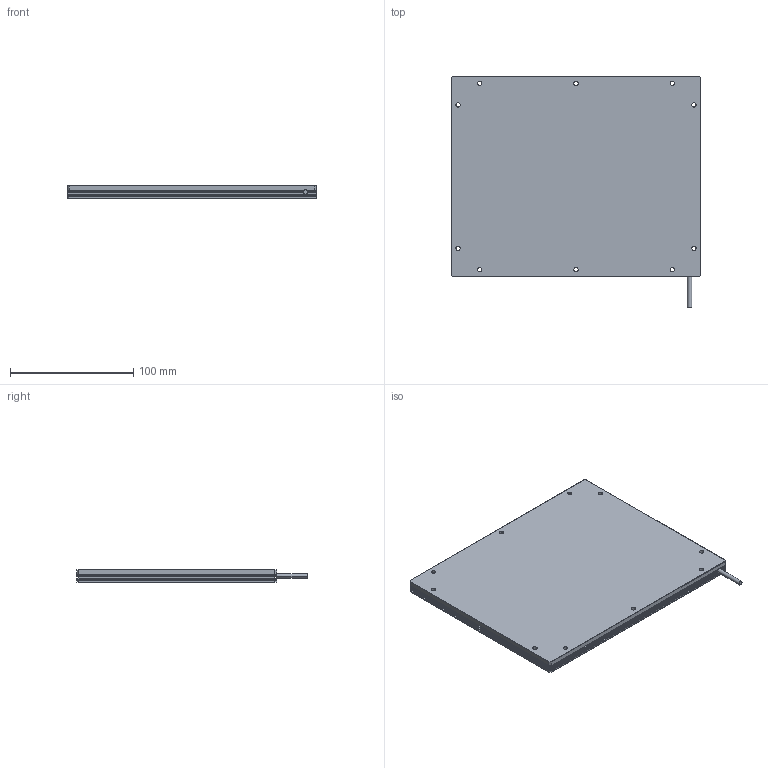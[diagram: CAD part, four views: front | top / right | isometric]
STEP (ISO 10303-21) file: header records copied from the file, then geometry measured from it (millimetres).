
FILE_DESCRIPTION((''),'2;1');
FILE_NAME('2','2021-11-23T',('rsee'),(''),'PRO/ENGINEER BY PARAMETRIC TECHNOLOGY CORPORATION, 2010100','PRO/ENGINEER BY PARAMETRIC TECHNOLOGY CORPORATION, 2010100','');
FILE_SCHEMA(('CONFIG_CONTROL_DESIGN'));
Length unit declared in the file: millimetre
Products named in the file (1): 2
Bounding box: 202 x 187 x 10.5 mm (x, y, z)
Volume: 304229.8 mm3; surface area: 84063.6 mm2
Topology: 1 solids, 21 shells, 305 faces, 794 edges, 522 vertices
Faces by surface type: plane 180, cylinder 101, cone 24
Entity records: 9275 total; most frequent: DIRECTION 1626, CARTESIAN_POINT 1598, ORIENTED_EDGE 1492, EDGE_CURVE 770, AXIS2_PLACEMENT_3D 550, VECTOR 526, LINE 526, VERTEX_POINT 522
